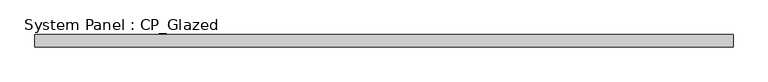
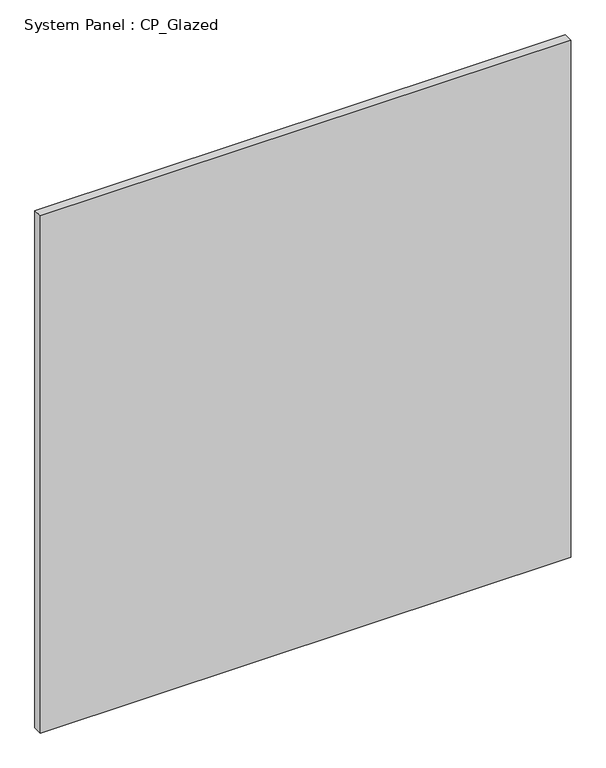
"""IFC4 building model written with IfcOpenShell, lengths in millimetres: plate geometry, System Panel : CP_Glazed."""

from ifc_helpers import new_model, si_unit, origin, origin_with_axes, place, context, project, spatial, polyline, outline, extrude, source, transform, mapped, element, save


def system_panel_cp_glazed_64696ee6(model_context):
    return source(origin(), model_context, "Body", "SweptSolid", [
        extrude(outline(polyline([(717.55, 19.05), (-717.55, 19.05), (-717.55, 44.45), (717.55, 44.45), (717.55, 19.05)])), origin_with_axes(), (0.0, 0.0, 1.0), 1479.55),
    ])


if __name__ == "__main__":
    model = new_model("IFC4")
    model_context = context("Model", 3, world=origin())
    ifc_project = project(units=[si_unit("LENGTHUNIT", "METRE", prefix="MILLI")], contexts=[model_context])
    site = spatial("IfcSite", under=ifc_project)
    building = spatial("IfcBuilding", under=site)
    placement = place(None, origin())
    system_panel_cp_glazed_shape = system_panel_cp_glazed_64696ee6(model_context)
    element("IfcPlate", 1, ObjectType="System Panel : CP_Glazed", at=placement, inside=building, context=model_context, shape_type="MappedRepresentation", body=[
        mapped(system_panel_cp_glazed_shape, transform((0.0, 0.0, 0.0), x_axis=(1.0, 0.0, 0.0), y_axis=(0.0, 1.0, 0.0), z_axis=(0.0, 0.0, 1.0))),
    ])
    save(model, "model.ifc")
